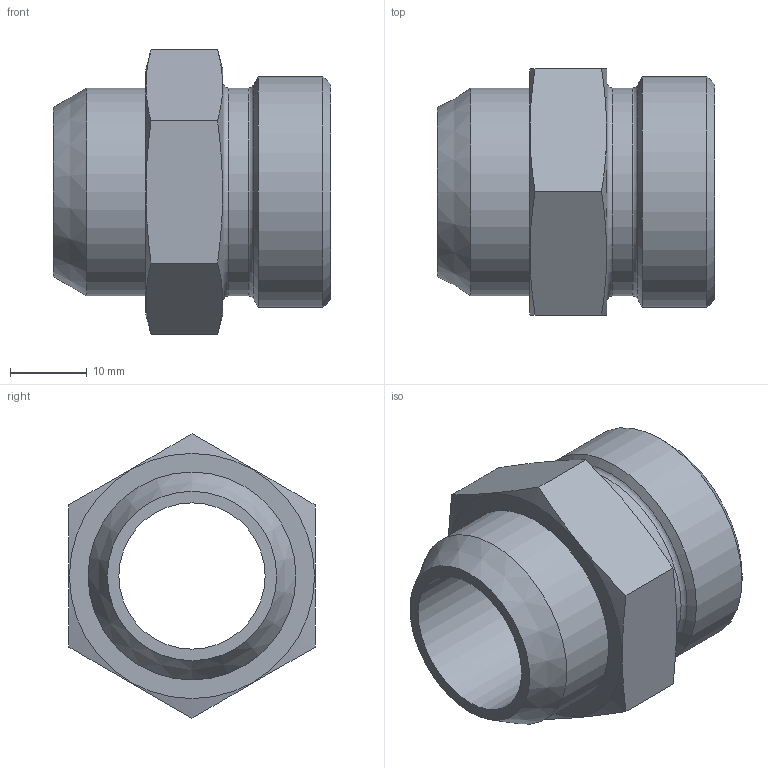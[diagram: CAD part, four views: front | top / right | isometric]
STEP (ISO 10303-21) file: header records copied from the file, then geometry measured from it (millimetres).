
FILE_DESCRIPTION( ( 'Unknown' ), '1' );
FILE_NAME( 'C:/Users/p.nanko/Desktop/3D SR/XASV22L.stp', 'Unknown', ( 'Peter Nanko' ), ( 'Armaturen Arndt' ), 'PSStep 14.0', 'Solid Edge ST4', ' ' );
FILE_SCHEMA( ( 'AUTOMOTIVE_DESIGN { 1 0 10303 214 1 1 1 1 }' ) );
Length unit declared in the file: millimetre
Products named in the file (1): 1
Bounding box: 36 x 32 x 36.95 mm (x, y, z)
Volume: 13416.7 mm3; surface area: 6673 mm2
Topology: 1 solids, 1 shells, 24 faces, 49 edges, 30 vertices
Faces by surface type: plane 11, cone 6, cylinder 5, torus 2
Full cylindrical faces by diameter (mm): 19 x1, 22 x1, 27 x2, 30 x1
Entity records: 840 total; most frequent: CARTESIAN_POINT 189, DIRECTION 90, ORIENTED_EDGE 70, AXIS2_PLACEMENT_3D 42, EDGE_LOOP 42, EDGE_CURVE 35, FACE_OUTER_BOUND 31, VERTEX_POINT 29
